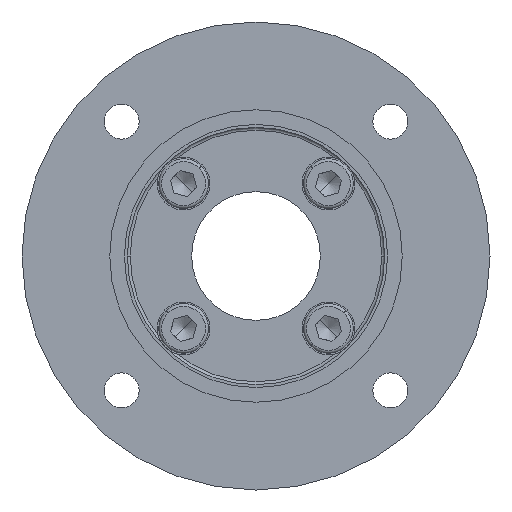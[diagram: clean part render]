
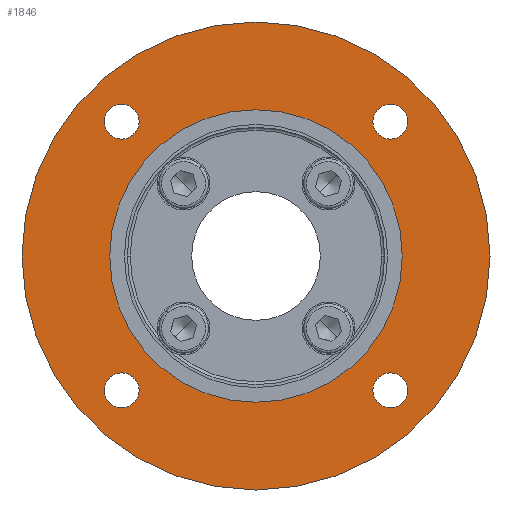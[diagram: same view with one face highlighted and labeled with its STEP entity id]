
A CAD part, left-side view. The second image highlights one B-rep face of the part: STEP entity #1846.
In plain terms, the highlighted planar face has unit normal (-1, 0, 0).
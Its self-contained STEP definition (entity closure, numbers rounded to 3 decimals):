
#26 = ORIENTED_EDGE ( 'NONE', *, *, #5417, .T. ) ;
#36 = CARTESIAN_POINT ( 'NONE',  ( -86., 48.601, -17.981 ) ) ;
#68 = EDGE_LOOP ( 'NONE', ( #686, #2737 ) ) ;
#118 = CARTESIAN_POINT ( 'NONE',  ( -86., 2.639, 27.981 ) ) ;
#147 = ORIENTED_EDGE ( 'NONE', *, *, #3239, .T. ) ;
#238 = AXIS2_PLACEMENT_3D ( 'NONE', #2544, #1741, #1317 ) ;
#302 = ORIENTED_EDGE ( 'NONE', *, *, #2011, .T. ) ;
#313 = DIRECTION ( 'NONE',  ( 1., 0., 0. ) ) ;
#342 = VERTEX_POINT ( 'NONE', #3913 ) ;
#346 = AXIS2_PLACEMENT_3D ( 'NONE', #1454, #4901, #5293 ) ;
#358 = CARTESIAN_POINT ( 'NONE',  ( -86., 45.601, -17.981 ) ) ;
#375 = AXIS2_PLACEMENT_3D ( 'NONE', #5480, #3397, #3342 ) ;
#384 = CARTESIAN_POINT ( 'NONE',  ( -86., 22.62, 5. ) ) ;
#466 = CIRCLE ( 'NONE', #5497, 40. ) ;
#551 = CIRCLE ( 'NONE', #3691, 25. ) ;
#576 = EDGE_CURVE ( 'NONE', #1942, #5052, #590, .T. ) ;
#590 = CIRCLE ( 'NONE', #3015, 3. ) ;
#627 = CARTESIAN_POINT ( 'NONE',  ( -86., -3.361, -17.981 ) ) ;
#686 = ORIENTED_EDGE ( 'NONE', *, *, #2314, .T. ) ;
#702 = DIRECTION ( 'NONE',  ( 1., 0., 0. ) ) ;
#828 = DIRECTION ( 'NONE',  ( 0., -1., 0. ) ) ;
#890 = CIRCLE ( 'NONE', #346, 3. ) ;
#943 = EDGE_CURVE ( 'NONE', #2531, #2221, #4840, .T. ) ;
#1073 = CIRCLE ( 'NONE', #3942, 40. ) ;
#1181 = FACE_BOUND ( 'NONE', #1372, .T. ) ;
#1227 = DIRECTION ( 'NONE',  ( 0., -1., 0. ) ) ;
#1314 = CARTESIAN_POINT ( 'NONE',  ( -86., 22.62, 5. ) ) ;
#1317 = DIRECTION ( 'NONE',  ( 0., -1., 0. ) ) ;
#1322 = EDGE_CURVE ( 'NONE', #4429, #3434, #5537, .T. ) ;
#1352 = VERTEX_POINT ( 'NONE', #5185 ) ;
#1372 = EDGE_LOOP ( 'NONE', ( #3237, #26 ) ) ;
#1399 = DIRECTION ( 'NONE',  ( 1., 0., 0. ) ) ;
#1433 = DIRECTION ( 'NONE',  ( 0., -1., 0. ) ) ;
#1454 = CARTESIAN_POINT ( 'NONE',  ( -86., 45.601, 27.981 ) ) ;
#1459 = CARTESIAN_POINT ( 'NONE',  ( -86., -3.361, 27.981 ) ) ;
#1738 = DIRECTION ( 'NONE',  ( 0., 0., -1. ) ) ;
#1741 = DIRECTION ( 'NONE',  ( 1., 0., 0. ) ) ;
#1841 = EDGE_CURVE ( 'NONE', #4478, #1352, #466, .T. ) ;
#1846 = ADVANCED_FACE ( 'NONE', ( #2179, #2921, #1993, #1181, #5424, #3024 ), #2835, .T. ) ;
#1874 = EDGE_LOOP ( 'NONE', ( #2414, #2641 ) ) ;
#1942 = VERTEX_POINT ( 'NONE', #118 ) ;
#1993 = FACE_BOUND ( 'NONE', #2748, .T. ) ;
#2011 = EDGE_CURVE ( 'NONE', #3434, #4429, #5164, .T. ) ;
#2117 = CARTESIAN_POINT ( 'NONE',  ( -86., 22.62, 45. ) ) ;
#2118 = ORIENTED_EDGE ( 'NONE', *, *, #5309, .T. ) ;
#2132 = CARTESIAN_POINT ( 'NONE',  ( -86., 2.639, -17.981 ) ) ;
#2179 = FACE_BOUND ( 'NONE', #1874, .T. ) ;
#2221 = VERTEX_POINT ( 'NONE', #3017 ) ;
#2314 = EDGE_CURVE ( 'NONE', #1352, #4478, #1073, .T. ) ;
#2321 = CARTESIAN_POINT ( 'NONE',  ( -86., 45.601, -17.981 ) ) ;
#2324 = CIRCLE ( 'NONE', #4474, 25. ) ;
#2414 = ORIENTED_EDGE ( 'NONE', *, *, #3115, .T. ) ;
#2531 = VERTEX_POINT ( 'NONE', #3505 ) ;
#2539 = DIRECTION ( 'NONE',  ( 0., 0., -1. ) ) ;
#2544 = CARTESIAN_POINT ( 'NONE',  ( -86., -0.361, 27.981 ) ) ;
#2550 = CARTESIAN_POINT ( 'NONE',  ( -86., 47.62, 5. ) ) ;
#2641 = ORIENTED_EDGE ( 'NONE', *, *, #3036, .T. ) ;
#2667 = CIRCLE ( 'NONE', #238, 3. ) ;
#2737 = ORIENTED_EDGE ( 'NONE', *, *, #1841, .T. ) ;
#2748 = EDGE_LOOP ( 'NONE', ( #2118, #5432 ) ) ;
#2753 = EDGE_LOOP ( 'NONE', ( #5039, #302 ) ) ;
#2805 = DIRECTION ( 'NONE',  ( 0., -1., 0. ) ) ;
#2835 = PLANE ( 'NONE',  #3597 ) ;
#2921 = FACE_BOUND ( 'NONE', #2753, .T. ) ;
#2931 = CARTESIAN_POINT ( 'NONE',  ( -86., 45.601, 27.981 ) ) ;
#2941 = AXIS2_PLACEMENT_3D ( 'NONE', #358, #3362, #4255 ) ;
#2958 = DIRECTION ( 'NONE',  ( 1., 0., 0. ) ) ;
#3015 = AXIS2_PLACEMENT_3D ( 'NONE', #5434, #313, #1227 ) ;
#3017 = CARTESIAN_POINT ( 'NONE',  ( -86., 48.601, 27.981 ) ) ;
#3024 = FACE_OUTER_BOUND ( 'NONE', #68, .T. ) ;
#3036 = EDGE_CURVE ( 'NONE', #3045, #3877, #4945, .T. ) ;
#3045 = VERTEX_POINT ( 'NONE', #2132 ) ;
#3115 = EDGE_CURVE ( 'NONE', #3877, #3045, #3417, .T. ) ;
#3219 = AXIS2_PLACEMENT_3D ( 'NONE', #2931, #2958, #828 ) ;
#3237 = ORIENTED_EDGE ( 'NONE', *, *, #943, .T. ) ;
#3239 = EDGE_CURVE ( 'NONE', #4633, #342, #551, .T. ) ;
#3342 = DIRECTION ( 'NONE',  ( 0., -1., 0. ) ) ;
#3362 = DIRECTION ( 'NONE',  ( 1., 0., 0. ) ) ;
#3397 = DIRECTION ( 'NONE',  ( 1., 0., 0. ) ) ;
#3417 = CIRCLE ( 'NONE', #3594, 3. ) ;
#3434 = VERTEX_POINT ( 'NONE', #36 ) ;
#3505 = CARTESIAN_POINT ( 'NONE',  ( -86., 42.601, 27.981 ) ) ;
#3594 = AXIS2_PLACEMENT_3D ( 'NONE', #5154, #4008, #1433 ) ;
#3597 = AXIS2_PLACEMENT_3D ( 'NONE', #4545, #3892, #1738 ) ;
#3638 = DIRECTION ( 'NONE',  ( 1., 0., 0. ) ) ;
#3668 = CARTESIAN_POINT ( 'NONE',  ( -86., 22.62, 5. ) ) ;
#3691 = AXIS2_PLACEMENT_3D ( 'NONE', #4487, #702, #4113 ) ;
#3877 = VERTEX_POINT ( 'NONE', #627 ) ;
#3892 = DIRECTION ( 'NONE',  ( -1., 0., 0. ) ) ;
#3913 = CARTESIAN_POINT ( 'NONE',  ( -86., -2.38, 5. ) ) ;
#3942 = AXIS2_PLACEMENT_3D ( 'NONE', #384, #5094, #2539 ) ;
#4008 = DIRECTION ( 'NONE',  ( 1., 0., 0. ) ) ;
#4027 = DIRECTION ( 'NONE',  ( 0., -1., 0. ) ) ;
#4113 = DIRECTION ( 'NONE',  ( 0., -1., 0. ) ) ;
#4255 = DIRECTION ( 'NONE',  ( 0., -1., 0. ) ) ;
#4271 = AXIS2_PLACEMENT_3D ( 'NONE', #2321, #1399, #4027 ) ;
#4429 = VERTEX_POINT ( 'NONE', #5165 ) ;
#4474 = AXIS2_PLACEMENT_3D ( 'NONE', #3668, #3638, #2805 ) ;
#4478 = VERTEX_POINT ( 'NONE', #2117 ) ;
#4487 = CARTESIAN_POINT ( 'NONE',  ( -86., 22.62, 5. ) ) ;
#4495 = EDGE_LOOP ( 'NONE', ( #4674, #147 ) ) ;
#4545 = CARTESIAN_POINT ( 'NONE',  ( -86., 22.62, -26.25 ) ) ;
#4633 = VERTEX_POINT ( 'NONE', #2550 ) ;
#4674 = ORIENTED_EDGE ( 'NONE', *, *, #4963, .T. ) ;
#4840 = CIRCLE ( 'NONE', #3219, 3. ) ;
#4901 = DIRECTION ( 'NONE',  ( 1., 0., 0. ) ) ;
#4945 = CIRCLE ( 'NONE', #375, 3. ) ;
#4963 = EDGE_CURVE ( 'NONE', #342, #4633, #2324, .T. ) ;
#4994 = DIRECTION ( 'NONE',  ( -1., 0., 0. ) ) ;
#5025 = DIRECTION ( 'NONE',  ( 0., 0., -1. ) ) ;
#5039 = ORIENTED_EDGE ( 'NONE', *, *, #1322, .T. ) ;
#5052 = VERTEX_POINT ( 'NONE', #1459 ) ;
#5094 = DIRECTION ( 'NONE',  ( -1., 0., 0. ) ) ;
#5154 = CARTESIAN_POINT ( 'NONE',  ( -86., -0.361, -17.981 ) ) ;
#5164 = CIRCLE ( 'NONE', #4271, 3. ) ;
#5165 = CARTESIAN_POINT ( 'NONE',  ( -86., 42.601, -17.981 ) ) ;
#5185 = CARTESIAN_POINT ( 'NONE',  ( -86., 22.62, -35. ) ) ;
#5293 = DIRECTION ( 'NONE',  ( 0., -1., 0. ) ) ;
#5309 = EDGE_CURVE ( 'NONE', #5052, #1942, #2667, .T. ) ;
#5417 = EDGE_CURVE ( 'NONE', #2221, #2531, #890, .T. ) ;
#5424 = FACE_BOUND ( 'NONE', #4495, .T. ) ;
#5432 = ORIENTED_EDGE ( 'NONE', *, *, #576, .T. ) ;
#5434 = CARTESIAN_POINT ( 'NONE',  ( -86., -0.361, 27.981 ) ) ;
#5480 = CARTESIAN_POINT ( 'NONE',  ( -86., -0.361, -17.981 ) ) ;
#5497 = AXIS2_PLACEMENT_3D ( 'NONE', #1314, #4994, #5025 ) ;
#5537 = CIRCLE ( 'NONE', #2941, 3. ) ;
